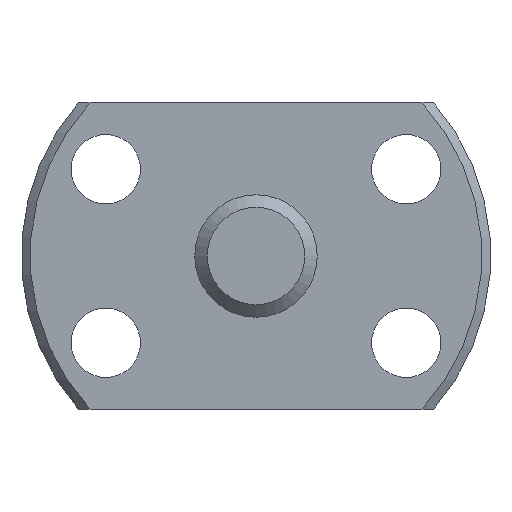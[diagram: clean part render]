
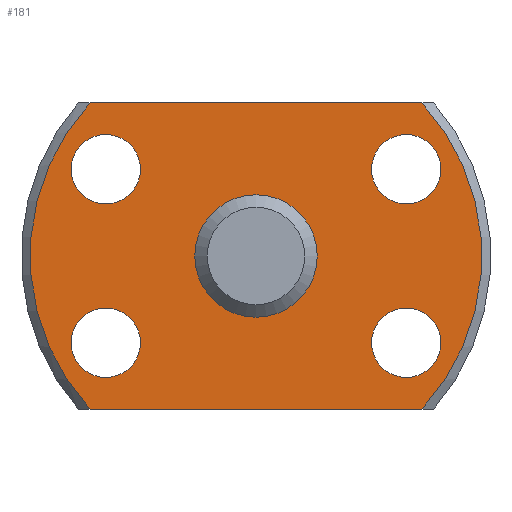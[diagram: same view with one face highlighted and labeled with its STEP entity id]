
A CAD part, left-side view. The second image highlights one B-rep face of the part: STEP entity #181.
In plain terms, the highlighted planar face has unit normal (-1, 0, 0).
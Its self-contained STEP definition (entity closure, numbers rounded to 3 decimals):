
#181 = ADVANCED_FACE( '', ( #229, #230, #231, #232, #233, #234 ), #235, .T. );
#229 = FACE_BOUND( '', #303, .T. );
#230 = FACE_OUTER_BOUND( '', #304, .T. );
#231 = FACE_BOUND( '', #305, .T. );
#232 = FACE_BOUND( '', #306, .T. );
#233 = FACE_BOUND( '', #307, .T. );
#234 = FACE_BOUND( '', #308, .T. );
#235 = PLANE( '', #309 );
#303 = EDGE_LOOP( '', ( #422 ) );
#304 = EDGE_LOOP( '', ( #423, #424, #425, #426 ) );
#305 = EDGE_LOOP( '', ( #427 ) );
#306 = EDGE_LOOP( '', ( #428 ) );
#307 = EDGE_LOOP( '', ( #429 ) );
#308 = EDGE_LOOP( '', ( #430 ) );
#309 = AXIS2_PLACEMENT_3D( '', #431, #432, #433 );
#422 = ORIENTED_EDGE( '', *, *, #534, .T. );
#423 = ORIENTED_EDGE( '', *, *, #535, .F. );
#424 = ORIENTED_EDGE( '', *, *, #536, .F. );
#425 = ORIENTED_EDGE( '', *, *, #511, .F. );
#426 = ORIENTED_EDGE( '', *, *, #532, .F. );
#427 = ORIENTED_EDGE( '', *, *, #537, .T. );
#428 = ORIENTED_EDGE( '', *, *, #538, .T. );
#429 = ORIENTED_EDGE( '', *, *, #539, .T. );
#430 = ORIENTED_EDGE( '', *, *, #540, .T. );
#431 = CARTESIAN_POINT( '', ( 0., 11.063, 0. ) );
#432 = DIRECTION( '', ( -1., 0., 0. ) );
#433 = DIRECTION( '', ( 0., 0., 1. ) );
#511 = EDGE_CURVE( '', #560, #562, #563, .T. );
#532 = EDGE_CURVE( '', #597, #560, #600, .T. );
#534 = EDGE_CURVE( '', #602, #602, #603, .T. );
#535 = EDGE_CURVE( '', #604, #597, #605, .T. );
#536 = EDGE_CURVE( '', #562, #604, #606, .T. );
#537 = EDGE_CURVE( '', #607, #607, #608, .T. );
#538 = EDGE_CURVE( '', #609, #609, #610, .T. );
#539 = EDGE_CURVE( '', #611, #611, #612, .T. );
#540 = EDGE_CURVE( '', #613, #613, #614, .T. );
#560 = VERTEX_POINT( '', #642 );
#562 = VERTEX_POINT( '', #647 );
#563 = LINE( '', #648, #649 );
#597 = VERTEX_POINT( '', #699 );
#600 = CIRCLE( '', #705, 11.063 );
#602 = VERTEX_POINT( '', #707 );
#603 = CIRCLE( '', #708, 3. );
#604 = VERTEX_POINT( '', #709 );
#605 = LINE( '', #710, #711 );
#606 = CIRCLE( '', #712, 11.063 );
#607 = VERTEX_POINT( '', #713 );
#608 = CIRCLE( '', #714, 1.7 );
#609 = VERTEX_POINT( '', #715 );
#610 = CIRCLE( '', #716, 1.7 );
#611 = VERTEX_POINT( '', #717 );
#612 = CIRCLE( '', #718, 1.7 );
#613 = VERTEX_POINT( '', #719 );
#614 = CIRCLE( '', #720, 1.7 );
#642 = CARTESIAN_POINT( '', ( 0., -8.132, -7.5 ) );
#647 = CARTESIAN_POINT( '', ( 0., 8.132, -7.5 ) );
#648 = CARTESIAN_POINT( '', ( 0., -11.5, -7.5 ) );
#649 = VECTOR( '', #748, 1000. );
#699 = CARTESIAN_POINT( '', ( 0., -8.132, 7.5 ) );
#705 = AXIS2_PLACEMENT_3D( '', #786, #787, #788 );
#707 = CARTESIAN_POINT( '', ( 0., 0., -3. ) );
#708 = AXIS2_PLACEMENT_3D( '', #792, #793, #794 );
#709 = CARTESIAN_POINT( '', ( 0., 8.132, 7.5 ) );
#710 = CARTESIAN_POINT( '', ( 0., 11.5, 7.5 ) );
#711 = VECTOR( '', #795, 1000. );
#712 = AXIS2_PLACEMENT_3D( '', #796, #797, #798 );
#713 = CARTESIAN_POINT( '', ( 0., 7.361, 2.55 ) );
#714 = AXIS2_PLACEMENT_3D( '', #799, #800, #801 );
#715 = CARTESIAN_POINT( '', ( 0., -7.361, 2.55 ) );
#716 = AXIS2_PLACEMENT_3D( '', #802, #803, #804 );
#717 = CARTESIAN_POINT( '', ( 0., -7.361, -5.95 ) );
#718 = AXIS2_PLACEMENT_3D( '', #805, #806, #807 );
#719 = CARTESIAN_POINT( '', ( 0., 7.361, -5.95 ) );
#720 = AXIS2_PLACEMENT_3D( '', #808, #809, #810 );
#748 = DIRECTION( '', ( 0., 1., 0. ) );
#786 = CARTESIAN_POINT( '', ( 0., 0., 0. ) );
#787 = DIRECTION( '', ( 1., 0., 0. ) );
#788 = DIRECTION( '', ( 0., 0., -1. ) );
#792 = CARTESIAN_POINT( '', ( 0., 0., 0. ) );
#793 = DIRECTION( '', ( 1., 0., 0. ) );
#794 = DIRECTION( '', ( 0., 0., -1. ) );
#795 = DIRECTION( '', ( 0., -1., 0. ) );
#796 = CARTESIAN_POINT( '', ( 0., 0., 0. ) );
#797 = DIRECTION( '', ( 1., 0., 0. ) );
#798 = DIRECTION( '', ( 0., 0., -1. ) );
#799 = CARTESIAN_POINT( '', ( 0., 7.361, 4.25 ) );
#800 = DIRECTION( '', ( 1., 0., 0. ) );
#801 = DIRECTION( '', ( 0., 0., -1. ) );
#802 = CARTESIAN_POINT( '', ( 0., -7.361, 4.25 ) );
#803 = DIRECTION( '', ( 1., 0., 0. ) );
#804 = DIRECTION( '', ( 0., 0., -1. ) );
#805 = CARTESIAN_POINT( '', ( 0., -7.361, -4.25 ) );
#806 = DIRECTION( '', ( 1., 0., 0. ) );
#807 = DIRECTION( '', ( 0., 0., -1. ) );
#808 = CARTESIAN_POINT( '', ( 0., 7.361, -4.25 ) );
#809 = DIRECTION( '', ( 1., 0., 0. ) );
#810 = DIRECTION( '', ( 0., 0., -1. ) );
